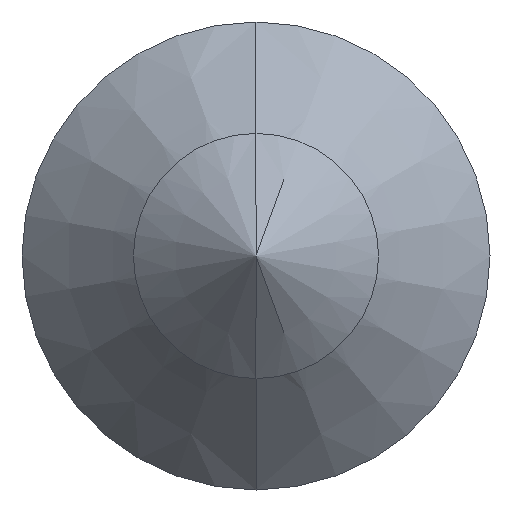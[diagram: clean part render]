
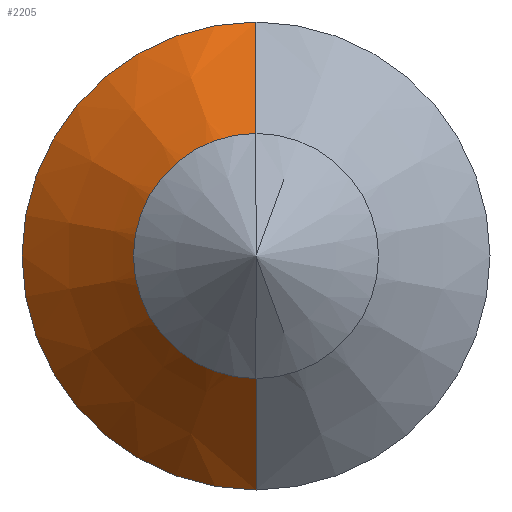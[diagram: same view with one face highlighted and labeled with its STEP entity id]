
A CAD part, left-side view. The second image highlights one B-rep face of the part: STEP entity #2205.
In plain terms, the highlighted conical face has half-angle 45 degrees and reference radius 2.1 mm.
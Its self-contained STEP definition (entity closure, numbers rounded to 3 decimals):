
#3 = CARTESIAN_POINT ( 'NONE',  ( 9.996, 0., 0. ) ) ;
#204 = EDGE_CURVE ( 'NONE', #1067, #1743, #3009, .T. ) ;
#235 = ORIENTED_EDGE ( 'NONE', *, *, #3305, .F. ) ;
#288 = DIRECTION ( 'NONE',  ( 1., 0., 0. ) ) ;
#345 = CARTESIAN_POINT ( 'NONE',  ( 9.996, 0., 2.1 ) ) ;
#490 = DIRECTION ( 'NONE',  ( 0., 0., -1. ) ) ;
#511 = CIRCLE ( 'NONE', #1249, 2.1 ) ;
#555 = CARTESIAN_POINT ( 'NONE',  ( 9.996, 0., 2.1 ) ) ;
#630 = CARTESIAN_POINT ( 'NONE',  ( 9.996, 0., -2.1 ) ) ;
#677 = DIRECTION ( 'NONE',  ( 0.707, 0., 0.707 ) ) ;
#680 = EDGE_CURVE ( 'NONE', #1384, #2969, #511, .T. ) ;
#723 = DIRECTION ( 'NONE',  ( 0.707, 0., -0.707 ) ) ;
#796 = LINE ( 'NONE', #345, #2944 ) ;
#997 = CONICAL_SURFACE ( 'NONE', #2355, 2.1, 0.785 ) ;
#1019 = ORIENTED_EDGE ( 'NONE', *, *, #3410, .T. ) ;
#1067 = VERTEX_POINT ( 'NONE', #2022 ) ;
#1080 = FACE_OUTER_BOUND ( 'NONE', #2159, .T. ) ;
#1225 = DIRECTION ( 'NONE',  ( 1., 0., 0. ) ) ;
#1249 = AXIS2_PLACEMENT_3D ( 'NONE', #3, #288, #490 ) ;
#1282 = DIRECTION ( 'NONE',  ( 0., 0., -1. ) ) ;
#1384 = VERTEX_POINT ( 'NONE', #630 ) ;
#1456 = ORIENTED_EDGE ( 'NONE', *, *, #204, .T. ) ;
#1743 = VERTEX_POINT ( 'NONE', #1827 ) ;
#1827 = CARTESIAN_POINT ( 'NONE',  ( 8.796, 0., 0.9 ) ) ;
#1868 = CARTESIAN_POINT ( 'NONE',  ( 8.796, 0., 0. ) ) ;
#1981 = LINE ( 'NONE', #2045, #2547 ) ;
#2022 = CARTESIAN_POINT ( 'NONE',  ( 8.796, 0., -0.9 ) ) ;
#2045 = CARTESIAN_POINT ( 'NONE',  ( 9.996, 0., -2.1 ) ) ;
#2159 = EDGE_LOOP ( 'NONE', ( #1456, #1019, #2821, #235 ) ) ;
#2205 = ADVANCED_FACE ( 'NONE', ( #1080 ), #997, .T. ) ;
#2355 = AXIS2_PLACEMENT_3D ( 'NONE', #2652, #2881, #2495 ) ;
#2373 = AXIS2_PLACEMENT_3D ( 'NONE', #1868, #1225, #1282 ) ;
#2495 = DIRECTION ( 'NONE',  ( 0., 0., -1. ) ) ;
#2547 = VECTOR ( 'NONE', #723, 1000. ) ;
#2652 = CARTESIAN_POINT ( 'NONE',  ( 9.996, 0., 0. ) ) ;
#2821 = ORIENTED_EDGE ( 'NONE', *, *, #680, .F. ) ;
#2881 = DIRECTION ( 'NONE',  ( 1., 0., 0. ) ) ;
#2944 = VECTOR ( 'NONE', #677, 1000. ) ;
#2969 = VERTEX_POINT ( 'NONE', #555 ) ;
#3009 = CIRCLE ( 'NONE', #2373, 0.9 ) ;
#3305 = EDGE_CURVE ( 'NONE', #1067, #1384, #1981, .T. ) ;
#3410 = EDGE_CURVE ( 'NONE', #1743, #2969, #796, .T. ) ;
